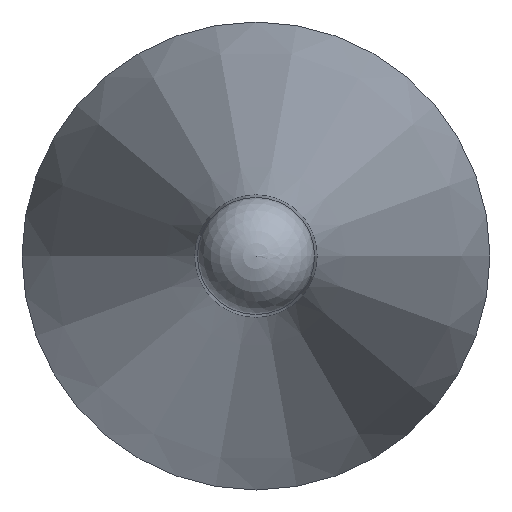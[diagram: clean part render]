
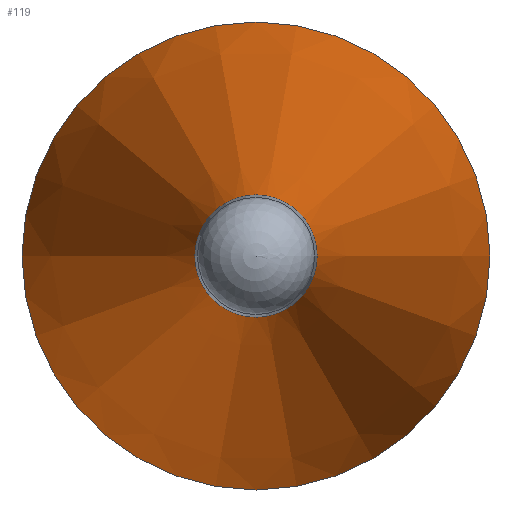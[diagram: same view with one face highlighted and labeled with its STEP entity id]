
A CAD part, left-side view. The second image highlights one B-rep face of the part: STEP entity #119.
In plain terms, the highlighted conical face has half-angle 12 degrees and reference radius 3 mm.
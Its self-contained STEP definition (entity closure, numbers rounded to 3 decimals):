
#97=CONICAL_SURFACE('',#194,3.,12.);
#106=FACE_BOUND('',#134,.T.);
#107=FACE_BOUND('',#135,.T.);
#119=ADVANCED_FACE('',(#106,#107),#97,.T.);
#134=EDGE_LOOP('',(#150));
#135=EDGE_LOOP('',(#151));
#150=ORIENTED_EDGE('',*,*,#172,.F.);
#151=ORIENTED_EDGE('',*,*,#173,.T.);
#164=VERTEX_POINT('',#249);
#165=VERTEX_POINT('',#252);
#172=EDGE_CURVE('',#164,#164,#180,.T.);
#173=EDGE_CURVE('',#165,#165,#181,.T.);
#180=CIRCLE('',#191,0.784);
#181=CIRCLE('',#193,3.);
#191=AXIS2_PLACEMENT_3D('',#248,#215,#216);
#193=AXIS2_PLACEMENT_3D('',#251,#219,#220);
#194=AXIS2_PLACEMENT_3D('',#253,#221,#222);
#215=DIRECTION('',(-1.,0.,0.));
#216=DIRECTION('',(0.,-1.,0.));
#219=DIRECTION('',(-1.,0.,0.));
#220=DIRECTION('',(0.,-1.,0.));
#221=DIRECTION('',(1.,0.,0.));
#222=DIRECTION('',(0.,1.,0.));
#248=CARTESIAN_POINT('',(7905.912,6103.288,0.));
#249=CARTESIAN_POINT('',(7905.912,6102.504,0.));
#251=CARTESIAN_POINT('',(7916.335,6103.288,0.));
#252=CARTESIAN_POINT('',(7916.335,6100.288,0.));
#253=CARTESIAN_POINT('',(7916.335,6103.288,0.));
